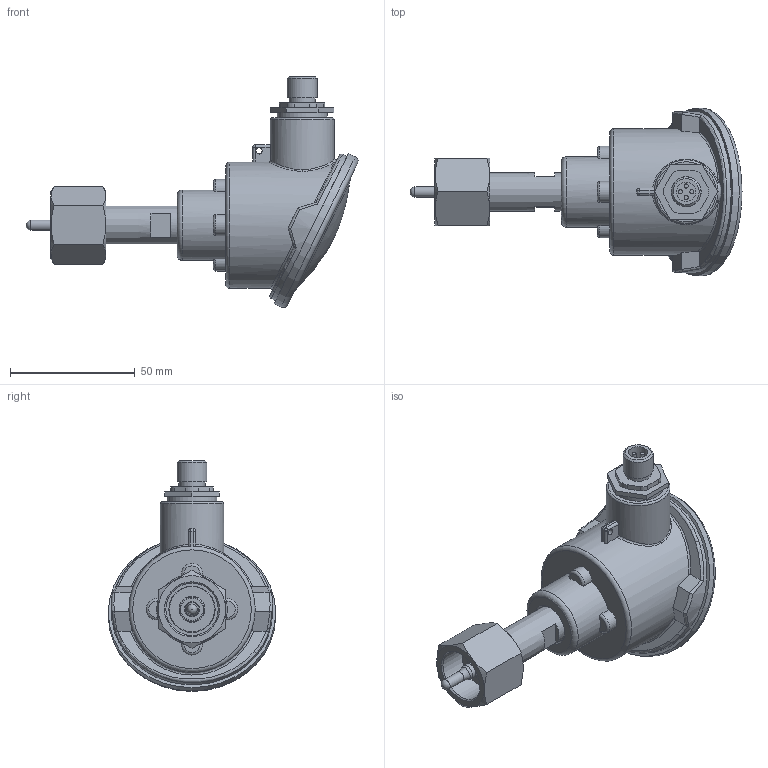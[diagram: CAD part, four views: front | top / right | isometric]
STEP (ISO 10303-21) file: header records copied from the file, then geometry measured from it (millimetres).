
FILE_DESCRIPTION(/* description */ ('Unknown'),/* implementation_level */ '2;1');
FILE_NAME(/* name */ 'TCR6-1120.190J.1023.1520.0020',/* time_stamp */ '2022-09-21T10:05:02+02:00',/* author */ ('Unknown'),/* organization */ ('Baumer'),/* preprocessor_version */ 'ST-DEVELOPER v16.7',/* originating_system */ 'Solid Edge',/* authorisation */ 'Unknown');
FILE_SCHEMA (('AUTOMOTIVE_DESIGN {1 0 10303 214 3 1 1}'));
Length unit declared in the file: millimetre
Products named in the file (1): Part1
Bounding box: 132.85 x 67 x 92.39 mm (x, y, z)
Volume: 63575 mm3; surface area: 40213 mm2
Topology: 3 solids, 4 shells, 200 faces, 463 edges, 303 vertices
Faces by surface type: plane 87, cylinder 54, torus 21, bspline 18, cone 16, sphere 4
Full cylindrical faces by diameter (mm): 1.64 x4, 2.5 x1, 2.75 x1, 4 x1, 4.15 x1, 6 x1, 6.1 x2, 7.709 x1, 8 x2, 8.4 x1, 9 x1, 9.6 x1, 10.5 x1, 11.2 x1, 11.741 x1, 12 x1, 13.1 x1, 13.16 x1, 13.8 x1, 14.376 x2, 15.5 x1, 15.7 x1, 18.5 x1, 20 x1, 20.955 x1, 21 x1, 25.5 x1, 28.2 x1, 47 x1, 50 x1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
Entity records: 7351 total; most frequent: CARTESIAN_POINT 2568, DIRECTION 806, ORIENTED_EDGE 702, AXIS2_PLACEMENT_3D 361, EDGE_CURVE 351, FACE_BOUND 312, EDGE_LOOP 310, VERTEX_POINT 265
